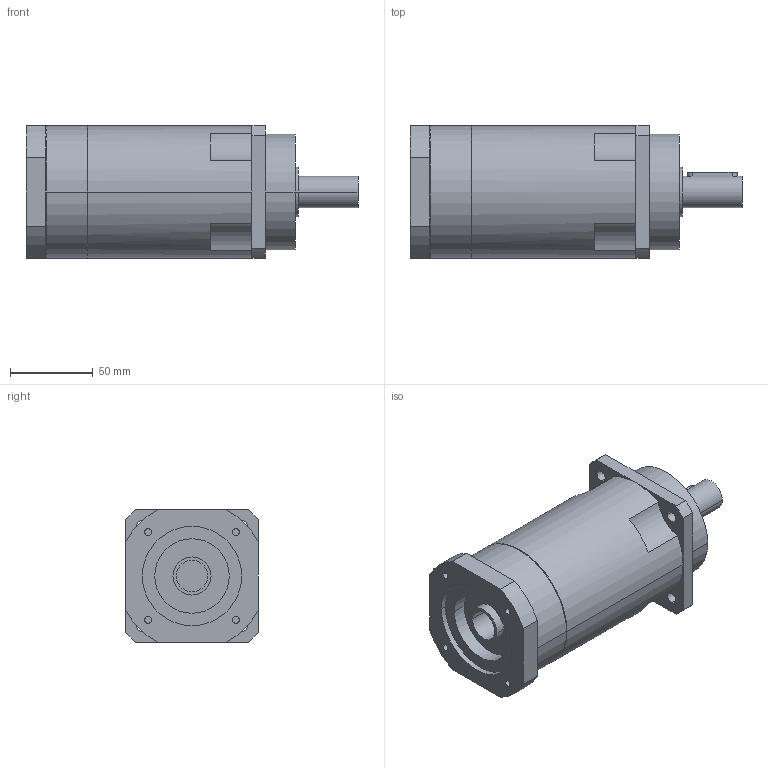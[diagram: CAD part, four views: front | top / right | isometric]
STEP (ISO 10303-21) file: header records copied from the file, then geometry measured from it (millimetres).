
FILE_DESCRIPTION(('CoCreate Modeling STEP Export'),'2;1');
FILE_NAME('GPR100_ig-48-64-80-100-120-144-180-216_19_B5_19_P23.stp','2014-08-26T11:56:27',(''),(''),'CoCreate Modeling STEP processor for AP214 (Solid Model)','CoCreate Modeling 16.00C 25-Feb-2009 (C) Parametric Technology GmbH','');
FILE_SCHEMA(('AUTOMOTIVE_DESIGN { 1 0 10303 214 1 1 1 1 }'));
Length unit declared in the file: millimetre
Products named in the file (2): GPR100_ig-48-64-80-100-120-144-180-216_19_B5_19_P23
Assembly tree (1 placements, depth 2):
  GPR100_ig-48-64-80-100-120-144-180-216_19_B5_19_P23
    GPR100_ig-48-64-80-100-120-144-180-216_19_B5_19_P23
Bounding box: 200.4 x 80 x 80 mm (x, y, z)
Volume: 785324.9 mm3; surface area: 64376.1 mm2
Topology: 1 solids, 1 shells, 90 faces, 240 edges, 164 vertices
Faces by surface type: cylinder 50, plane 34, cone 6
Entity records: 2546 total; most frequent: ORIENTED_EDGE 476, CARTESIAN_POINT 463, DIRECTION 376, EDGE_CURVE 238, VERTEX_POINT 164, AXIS2_PLACEMENT_3D 141, EDGE_LOOP 112, VECTOR 94
